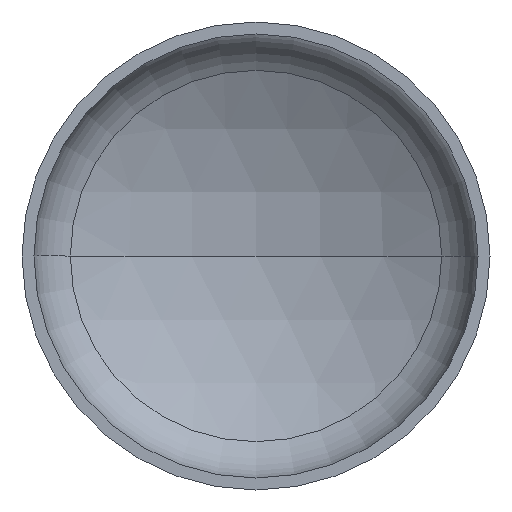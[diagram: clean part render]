
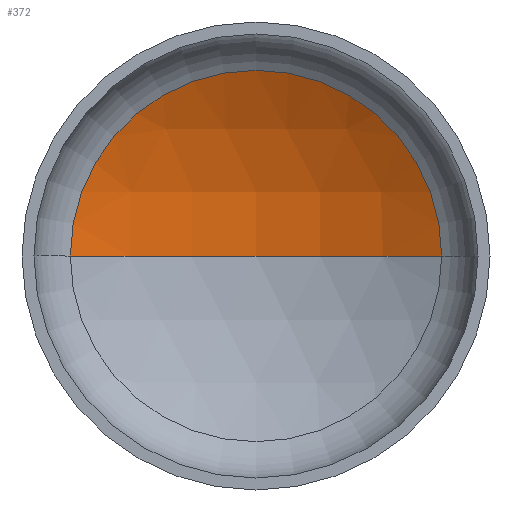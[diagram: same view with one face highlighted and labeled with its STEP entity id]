
A CAD part, front view. The second image highlights one B-rep face of the part: STEP entity #372.
In plain terms, the highlighted spherical face has radius 2880 mm.
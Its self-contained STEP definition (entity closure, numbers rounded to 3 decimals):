
#5 = VERTEX_POINT ( 'NONE', #288 ) ;
#9 = EDGE_LOOP ( 'NONE', ( #76, #57, #16 ) ) ;
#10 = AXIS2_PLACEMENT_3D ( 'NONE', #154, #152, #85 ) ;
#13 = AXIS2_PLACEMENT_3D ( 'NONE', #344, #346, #205 ) ;
#16 = ORIENTED_EDGE ( 'NONE', *, *, #374, .T. ) ;
#41 = AXIS2_PLACEMENT_3D ( 'NONE', #217, #335, #337 ) ;
#57 = ORIENTED_EDGE ( 'NONE', *, *, #354, .T. ) ;
#76 = ORIENTED_EDGE ( 'NONE', *, *, #360, .F. ) ;
#83 = AXIS2_PLACEMENT_3D ( 'NONE', #359, #172, #157 ) ;
#85 = DIRECTION ( 'NONE',  ( -1., 0., 0. ) ) ;
#123 = VERTEX_POINT ( 'NONE', #247 ) ;
#129 = VERTEX_POINT ( 'NONE', #242 ) ;
#152 = DIRECTION ( 'NONE',  ( 0., 0., -1. ) ) ;
#154 = CARTESIAN_POINT ( 'NONE',  ( 0., -1918.964, 0. ) ) ;
#157 = DIRECTION ( 'NONE',  ( -1., 0., 0. ) ) ;
#172 = DIRECTION ( 'NONE',  ( 0., 0., -1. ) ) ;
#205 = DIRECTION ( 'NONE',  ( 1., 0., 0. ) ) ;
#217 = CARTESIAN_POINT ( 'NONE',  ( 0., -1918.964, 0. ) ) ;
#242 = CARTESIAN_POINT ( 'NONE',  ( 0., 961.036, 0. ) ) ;
#247 = CARTESIAN_POINT ( 'NONE',  ( -1428.232, 581.946, 0. ) ) ;
#288 = CARTESIAN_POINT ( 'NONE',  ( 1428.232, 581.946, 0. ) ) ;
#316 = CIRCLE ( 'NONE', #13, 1428.232 ) ;
#323 = FACE_OUTER_BOUND ( 'NONE', #9, .T. ) ;
#329 = CIRCLE ( 'NONE', #41, 2880. ) ;
#335 = DIRECTION ( 'NONE',  ( 0., 0., 1. ) ) ;
#337 = DIRECTION ( 'NONE',  ( 1., 0., 0. ) ) ;
#344 = CARTESIAN_POINT ( 'NONE',  ( 0., 581.946, 0. ) ) ;
#346 = DIRECTION ( 'NONE',  ( 0., -1., 0. ) ) ;
#354 = EDGE_CURVE ( 'NONE', #129, #5, #391, .T. ) ;
#359 = CARTESIAN_POINT ( 'NONE',  ( 0., -1918.964, 0. ) ) ;
#360 = EDGE_CURVE ( 'NONE', #129, #123, #329, .T. ) ;
#372 = ADVANCED_FACE ( 'NONE', ( #323 ), #378, .F. ) ;
#374 = EDGE_CURVE ( 'NONE', #5, #123, #316, .T. ) ;
#378 = SPHERICAL_SURFACE ( 'NONE', #10, 2880. ) ;
#391 = CIRCLE ( 'NONE', #83, 2880. ) ;
